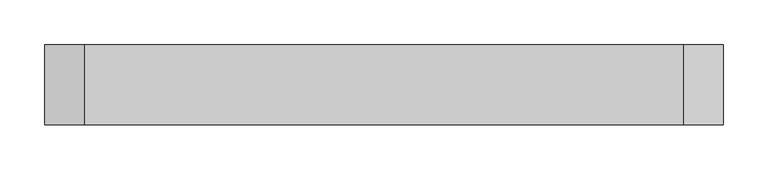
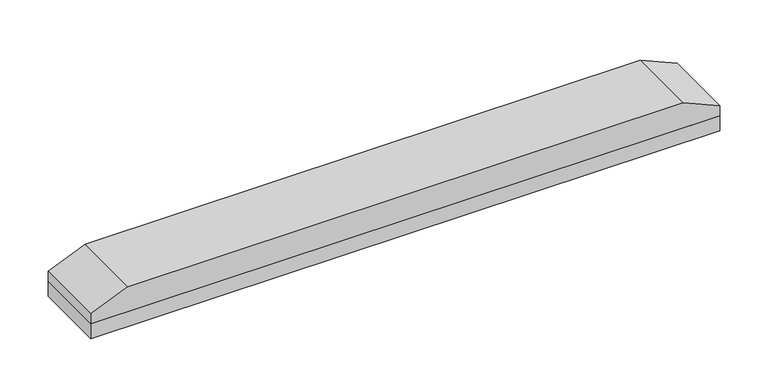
"""IFC4 building model written with IfcOpenShell, lengths in millimetres: proxy geometry, Spinneybeck_ARO Plank 8 : A - 2’-9” x 3 1/2” x 1 1/4”."""

from ifc_helpers import new_model, si_unit, frame, origin, origin_with_axes, place, context, project, spatial, polyline, outline, extrude, source, transform, mapped, element, save


def specialty_equipment_b25e9ab8(model_context):
    return source(origin(), model_context, "Body", "SweptSolid", [
        extrude(outline(polyline([(19.05, -377.825), (19.05, 377.825), (31.75, 377.825), (50.8, 333.375), (50.8, -333.375), (31.75, -377.825), (19.05, -377.825)])), frame((0.0, -44.45, 0.0), z_axis=(0.0, 1.0, 0.0), x_axis=(0.0, 0.0, 1.0)), (0.0, 0.0, 1.0), 88.9),
        extrude(outline(polyline([(-377.825, -44.45), (-377.825, 44.45), (377.825, 44.45), (377.825, -44.45), (-377.825, -44.45)])), origin_with_axes(), (0.0, 0.0, 1.0), 19.05),
    ])


if __name__ == "__main__":
    model = new_model("IFC4")
    model_context = context("Model", 3, world=origin())
    ifc_project = project(units=[si_unit("LENGTHUNIT", "METRE", prefix="MILLI")], contexts=[model_context])
    site = spatial("IfcSite", under=ifc_project)
    building = spatial("IfcBuilding", under=site)
    placement = place(None, origin())
    specialty_equipment_shape = specialty_equipment_b25e9ab8(model_context)
    element("IfcBuildingElementProxy", 1, Name="Spinneybeck_ARO Plank 8 : A - 2’-9” x 3 1/2” x 1 1/4”", ObjectType="Spinneybeck_ARO Plank 8 : A - 2’-9” x 3 1/2” x 1 1/4”", at=placement, inside=building, context=model_context, shape_type="MappedRepresentation", body=[
        mapped(specialty_equipment_shape, transform((0.0, 0.0, 0.0), x_axis=(1.0, 0.0, 0.0), y_axis=(0.0, 1.0, 0.0), z_axis=(0.0, 0.0, 1.0))),
    ])
    save(model, "model.ifc")
